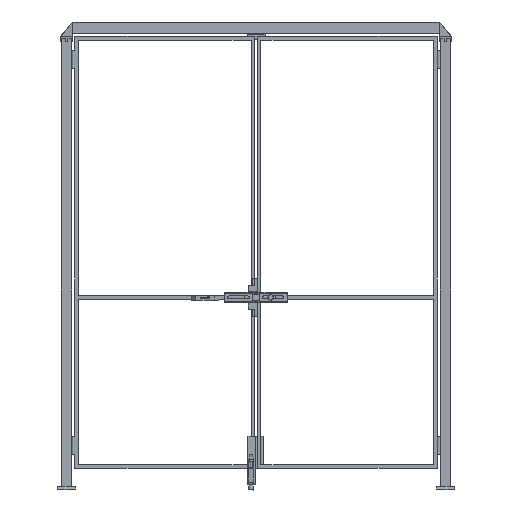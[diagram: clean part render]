
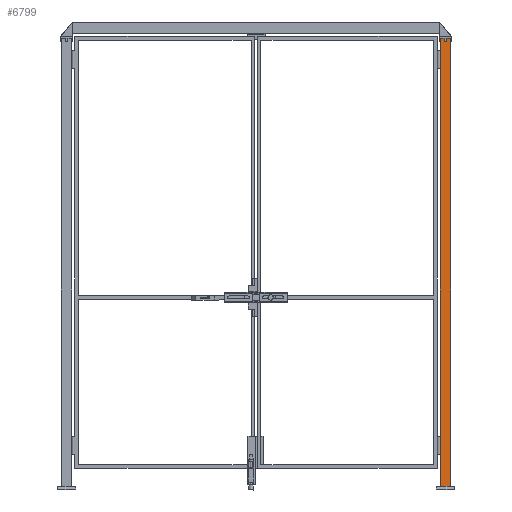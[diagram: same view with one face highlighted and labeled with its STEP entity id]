
A CAD part, front view. The second image highlights one B-rep face of the part: STEP entity #6799.
In plain terms, the highlighted planar face has unit normal (0, -1, 0).
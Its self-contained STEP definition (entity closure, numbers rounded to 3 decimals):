
#886=FACE_OUTER_BOUND('',#1222,.T.);
#1222=EDGE_LOOP('',(#5161,#5162,#5163,#5164));
#1726=LINE('',#9940,#2567);
#1728=LINE('',#9946,#2569);
#1731=LINE('',#9951,#2572);
#1732=LINE('',#9952,#2573);
#2567=VECTOR('',#8000,1.);
#2569=VECTOR('',#8004,1.);
#2572=VECTOR('',#8009,1.);
#2573=VECTOR('',#8010,1.);
#3339=VERTEX_POINT('',#9933);
#3342=VERTEX_POINT('',#9938);
#3344=VERTEX_POINT('',#9943);
#3345=VERTEX_POINT('',#9945);
#4047=EDGE_CURVE('',#3342,#3339,#1726,.T.);
#4049=EDGE_CURVE('',#3344,#3345,#1728,.T.);
#4052=EDGE_CURVE('',#3342,#3345,#1731,.T.);
#4053=EDGE_CURVE('',#3339,#3344,#1732,.T.);
#5161=ORIENTED_EDGE('',*,*,#4052,.T.);
#5162=ORIENTED_EDGE('',*,*,#4049,.F.);
#5163=ORIENTED_EDGE('',*,*,#4053,.F.);
#5164=ORIENTED_EDGE('',*,*,#4047,.F.);
#6510=PLANE('',#7183);
#6799=ADVANCED_FACE('',(#886),#6510,.F.);
#7183=AXIS2_PLACEMENT_3D('',#9950,#8007,#8008);
#8000=DIRECTION('',(1.,0.,0.));
#8004=DIRECTION('',(-1.,0.,0.));
#8007=DIRECTION('center_axis',(0.,1.,0.));
#8008=DIRECTION('ref_axis',(0.,0.,1.));
#8009=DIRECTION('',(0.,0.,-1.));
#8010=DIRECTION('',(0.,0.,-1.));
#9933=CARTESIAN_POINT('',(30.,-30.,2520.));
#9938=CARTESIAN_POINT('',(-30.,-30.,2520.));
#9940=CARTESIAN_POINT('',(0.,-30.,2520.));
#9943=CARTESIAN_POINT('',(30.,-30.,20.));
#9945=CARTESIAN_POINT('',(-30.,-30.,20.));
#9946=CARTESIAN_POINT('',(0.,-30.,20.));
#9950=CARTESIAN_POINT('Origin',(0.,-30.,
1270.));
#9951=CARTESIAN_POINT('',(-30.,-30.,1270.));
#9952=CARTESIAN_POINT('',(30.,-30.,1270.));
